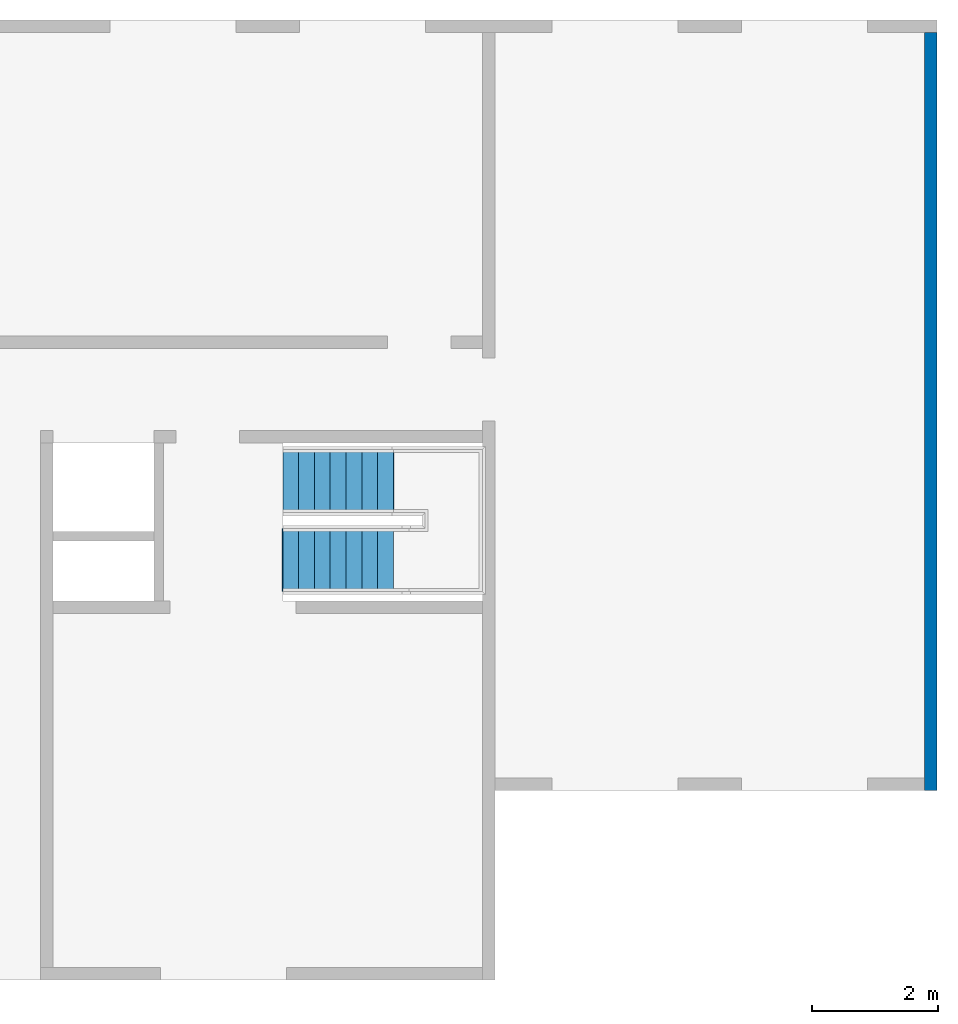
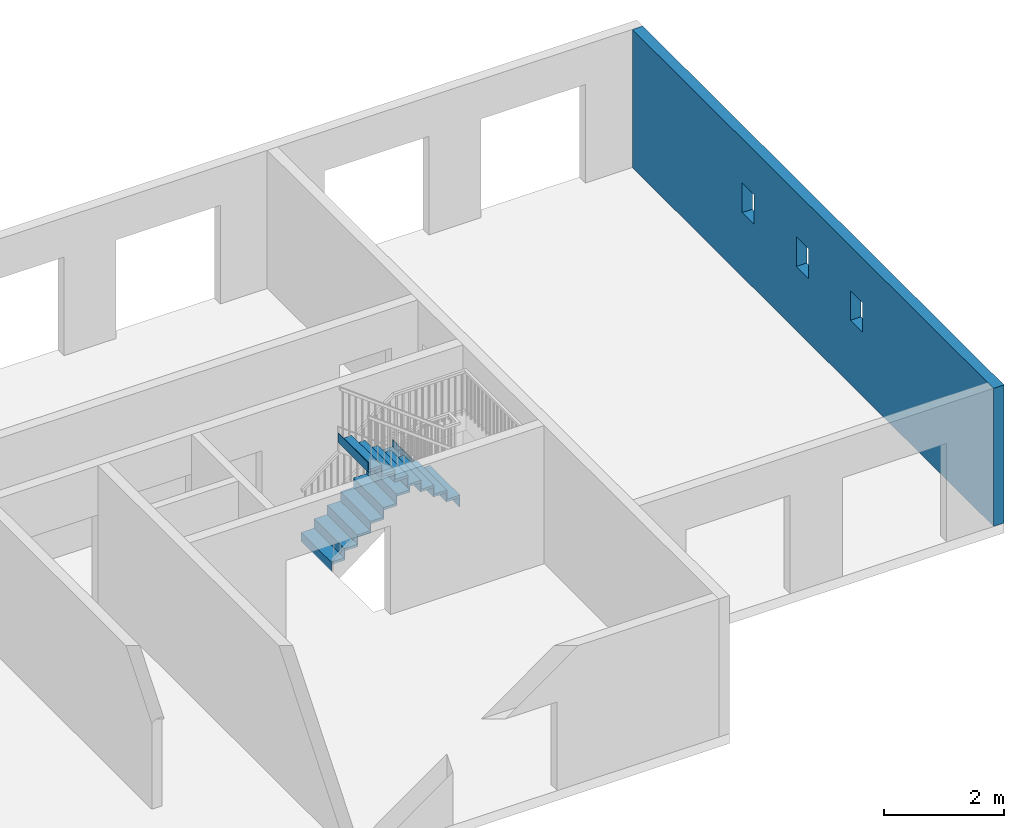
# One storey, part 2 of 3: 2 stair flights, 1 wall, 3 openings, 1 element without a shape of its own.
"""IFC2X3 building model written with IfcOpenShell, lengths in metres."""

import ifcopenshell
import ifcopenshell.guid

model = None  # the IFC model being written
_history = None  # IfcOwnerHistory: only IFC2X3 demands one
_inside = {}  # id of a spatial element -> (the spatial element, [elements in it])
_under = {}  # id of a project, library or spatial element -> (it, [spatial elements below it])
_declared = {}  # id of a project -> (the project, [libraries it declares])
_typed = {}  # id of a type object -> (the type object, [elements of that type])
_made_of = {}  # id of a material, layer set ... -> (it, [elements and type objects made of it])


def new_model(schema):
    """Start an empty IFC model of exactly this schema.

    Asked for "IFC4X3", IfcOpenShell would pick the latest addendum, in which some entities
    have other attributes; the version numbers below select the first issue.
    IFC2X3 requires an IfcOwnerHistory on every rooted entity: one is made here for all.
    """
    global model, _history
    if schema == "IFC4X3":
        model = ifcopenshell.file(schema_version=(4, 3, 0, 0))
    else:
        model = ifcopenshell.file(schema=schema)
    _inside.clear()
    _under.clear()
    _declared.clear()
    _typed.clear()
    _made_of.clear()
    _history = None
    if model.schema == "IFC2X3":
        org = make("IfcOrganization", Name="unknown")
        user = make(
            "IfcPersonAndOrganization",
            ThePerson=make("IfcPerson", FamilyName="unknown"),
            TheOrganization=org,
        )
        app = make(
            "IfcApplication",
            ApplicationDeveloper=org,
            Version="unknown",
            ApplicationFullName="unknown",
            ApplicationIdentifier="unknown",
        )
        _history = make(
            "IfcOwnerHistory",
            OwningUser=user,
            OwningApplication=app,
            ChangeAction="ADDED",
            CreationDate=0,
        )
    return model


def make(cls, **values):
    """One entity of the class cls with the attributes given. An attribute that is None is left unset."""
    return model.create_entity(
        cls, **{name: value for name, value in values.items() if value is not None}
    )


def entity(cls, *values):
    """Any entity or typed value of the class cls, its attributes in the order of the schema. None: left unset."""
    e = model.create_entity(cls)
    for i, value in enumerate(values):
        if value is not None:
            e[i] = value
    return e


def rooted(cls, **values):
    """An entity with a GlobalId (a new one), such as an element, a storey or a relation."""
    return make(cls, GlobalId=ifcopenshell.guid.new(), OwnerHistory=_history, **values)


def si_unit(unit_type, name, prefix=None):
    """IfcSIUnit, for example si_unit("LENGTHUNIT", "METRE", prefix="MILLI")."""
    return make("IfcSIUnit", UnitType=unit_type, Prefix=prefix, Name=name)


def converted_unit(unit_type, name, factor, base, dimensions=None, offset=None):
    """IfcConversionBasedUnit, such as the inch: factor (a typed value) times the base unit."""
    return make(
        "IfcConversionBasedUnit"
        if offset is None
        else "IfcConversionBasedUnitWithOffset",
        ConversionOffset=offset,
        Dimensions=None
        if dimensions is None
        else entity("IfcDimensionalExponents", *dimensions),
        UnitType=unit_type,
        Name=name,
        ConversionFactor=make(
            "IfcMeasureWithUnit", ValueComponent=factor, UnitComponent=base
        ),
    )


def derived_unit(unit_type, elements):
    """IfcDerivedUnit: a product of units, each with its exponent."""
    return make(
        "IfcDerivedUnit",
        Elements=[
            make("IfcDerivedUnitElement", Unit=unit, Exponent=power)
            for unit, power in elements
        ],
        UnitType=unit_type,
    )


def assignment(units):
    """IfcUnitAssignment: the units of a project."""
    return None if units is None else make("IfcUnitAssignment", Units=units)


def point(xyz):
    """IfcCartesianPoint."""
    return None if xyz is None else make("IfcCartesianPoint", Coordinates=xyz)


def direction(xyz):
    """IfcDirection."""
    return None if xyz is None else make("IfcDirection", DirectionRatios=xyz)


def frame(location, z_axis=None, x_axis=None):
    """IfcAxis2Placement3D, a coordinate frame: its origin and axes. An axis left out is left unset."""
    return make(
        "IfcAxis2Placement3D",
        Location=point(location),
        Axis=direction(z_axis),
        RefDirection=direction(x_axis),
    )


def frame_2d(location, x_axis=None):
    """IfcAxis2Placement2D, a coordinate frame in the plane: its origin and x axis."""
    return make(
        "IfcAxis2Placement2D", Location=point(location), RefDirection=direction(x_axis)
    )


def origin():
    """The frame at (0, 0, 0) with its axes left unset."""
    return frame((0.0, 0.0, 0.0))


def origin_2d_with_axis():
    """The frame at (0, 0) in the plane with the x axis (1, 0) written out."""
    return frame_2d((0.0, 0.0), x_axis=(1.0, 0.0))


def place(relative_to, where):
    """IfcLocalPlacement: puts the frame where relative to a parent placement (None: the world)."""
    return make(
        "IfcLocalPlacement", PlacementRelTo=relative_to, RelativePlacement=where
    )


def context(
    kind, dimensions, precision=None, world=None, true_north=None, identifier=None
):
    """IfcGeometricRepresentationContext, for example the 3D "Model" context."""
    return make(
        "IfcGeometricRepresentationContext",
        ContextIdentifier=identifier,
        ContextType=kind,
        CoordinateSpaceDimension=dimensions,
        Precision=precision,
        WorldCoordinateSystem=world,
        TrueNorth=true_north,
    )


def subcontext(parent, identifier, kind, view, scale=None):
    """IfcGeometricRepresentationSubContext, for example "Body" below "Model"."""
    return make(
        "IfcGeometricRepresentationSubContext",
        ContextIdentifier=identifier,
        ContextType=kind,
        ParentContext=parent,
        TargetScale=scale,
        TargetView=view,
    )


def project(units=None, contexts=None):
    """IfcProject with its units and contexts."""
    return rooted(
        "IfcProject",
        Name="project",
        RepresentationContexts=contexts,
        UnitsInContext=assignment(units),
    )


def spatial(cls, under=None, at=None, **own):
    """A site, building, storey or space (cls), placed at a placement, below another one or the project."""
    s = rooted(cls, ObjectPlacement=at, **own)
    if under is not None:
        _under.setdefault(under.id(), (under, []))[1].append(s)
    return s


def profile(cls, at=None, kind="AREA", **sizes):
    """A parametric profile (cls). Its sizes go by their IFC names, for example OverallWidth=200.0."""
    return make(cls, ProfileType=kind, Position=at, **sizes)


def rectangle(**sizes):
    """IfcRectangleProfileDef."""
    return profile("IfcRectangleProfileDef", **sizes)


def extrude(swept, where, along, depth):
    """IfcExtrudedAreaSolid: the profile swept, set in the frame where, extruded along a direction by depth."""
    return make(
        "IfcExtrudedAreaSolid",
        SweptArea=swept,
        Position=where,
        ExtrudedDirection=direction(along),
        Depth=depth,
    )


def shape(context_of_items, identifier, shape_type, items):
    """IfcShapeRepresentation: the items that make up one representation, for example the "Body"."""
    return make(
        "IfcShapeRepresentation",
        ContextOfItems=context_of_items,
        RepresentationIdentifier=identifier,
        RepresentationType=shape_type,
        Items=items,
    )


def material(Name=None, Category=None):
    """IfcMaterial."""
    return make("IfcMaterial", Name=Name, Category=Category)


def layer(
    of_material, thickness, ventilated=None, Name=None, Category=None, Priority=None
):
    """IfcMaterialLayer: one layer of a wall or slab, of a material (None: an air gap)."""
    return make(
        "IfcMaterialLayer",
        Material=of_material,
        LayerThickness=thickness,
        IsVentilated=ventilated,
        Name=Name,
        Category=Category,
        Priority=Priority,
    )


def layer_set(layers, Name=None):
    """IfcMaterialLayerSet."""
    return make("IfcMaterialLayerSet", MaterialLayers=layers, LayerSetName=Name)


def layer_usage(for_layer_set, set_direction, sense, offset, extent=None):
    """IfcMaterialLayerSetUsage: how a layer set lies in its element."""
    return make(
        "IfcMaterialLayerSetUsage",
        ForLayerSet=for_layer_set,
        LayerSetDirection=set_direction,
        DirectionSense=sense,
        OffsetFromReferenceLine=offset,
        ReferenceExtent=extent,
    )


def made_of(thing, what):
    """Note that an element or type object is made of a material, layer set ...; save() writes the relation."""
    if what is not None:
        _made_of.setdefault(what.id(), (what, []))[1].append(thing)
    return thing


def type_object(cls, material=None, **own):
    """A type object (cls), such as IfcWallType, which elements share."""
    return made_of(rooted(cls, **own), material)


def element(
    cls,
    number,
    at=None,
    inside=None,
    cuts=None,
    type_object=None,
    material=None,
    context=None,
    identifier="Body",
    shape_type=None,
    held_by="IfcProductDefinitionShape",
    body=None,
    shapes=None,
    **own,
):
    """One element of the class cls, such as IfcWall. Its Tag is "e" and its number.

    at: its placement. inside: the storey or other place that contains it. cuts: it is an
    opening in that element (IfcRelVoidsElement). A single representation is given by context,
    identifier, shape_type and body (its items); several are given by shapes. held_by: the class
    of the entity that holds the representations. save() writes the other relations.
    """
    e = rooted(cls, Tag="e%d" % number, ObjectPlacement=at, **own)
    if body is not None:
        shapes = [shape(context, identifier, shape_type, body)]
    if shapes is not None:
        e.Representation = make(held_by, Representations=shapes)
    if inside is not None:
        _inside.setdefault(inside.id(), (inside, []))[1].append(e)
    if cuts is not None:
        rooted(
            "IfcRelVoidsElement", RelatingBuildingElement=cuts, RelatedOpeningElement=e
        )
    if type_object is not None:
        _typed.setdefault(type_object.id(), (type_object, []))[1].append(e)
    return made_of(e, material)


def aggregate(whole, parts):
    """IfcRelAggregates: a whole, such as a stair, and the parts it consists of."""
    return rooted("IfcRelAggregates", RelatingObject=whole, RelatedObjects=parts)


def save(model, path):
    """Write the relations noted so far, then the file.

    IfcRelAggregates (storeys below a building ...), IfcRelContainedInSpatialStructure (elements
    in a storey), IfcRelDefinesByType, IfcRelAssociatesMaterial and IfcRelDeclares: one each for
    every whole, place, type object, material and project.
    """
    for whole, parts in _under.values():
        aggregate(whole, parts)
    for where, things in _inside.values():
        rooted(
            "IfcRelContainedInSpatialStructure",
            RelatedElements=things,
            RelatingStructure=where,
        )
    for kind, things in _typed.values():
        rooted("IfcRelDefinesByType", RelatedObjects=things, RelatingType=kind)
    for what, things in _made_of.values():
        rooted("IfcRelAssociatesMaterial", RelatedObjects=things, RelatingMaterial=what)
    for by, libraries in _declared.values():
        rooted("IfcRelDeclares", RelatingContext=by, RelatedDefinitions=libraries)
    model.write(path)


model = new_model("IFC2X3")

# Units and contexts
model_context = context("Model", 3, precision=1e-05, world=origin(), true_north=direction((6.12303176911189e-17, 1.0)))
context_of_model = context(None, 3, precision=1e-05, world=origin(), true_north=direction((6.12303176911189e-17, 1.0)))
body_context = subcontext(model_context, "Body", "Model", "MODEL_VIEW")
ifc_project = project(units=[si_unit("LENGTHUNIT", "METRE"), si_unit("AREAUNIT", "SQUARE_METRE"), si_unit("VOLUMEUNIT", "CUBIC_METRE"), converted_unit("PLANEANGLEUNIT", "DEGREE", entity("IfcRatioMeasure", 0.0174532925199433), si_unit("PLANEANGLEUNIT", "RADIAN"), dimensions=[0, 0, 0, 0, 0, 0, 0]), si_unit("MASSUNIT", "GRAM", prefix="KILO"), derived_unit("MASSDENSITYUNIT", [(si_unit("MASSUNIT", "GRAM", prefix="KILO"), 1), (si_unit("LENGTHUNIT", "METRE"), -3)]), si_unit("TIMEUNIT", "SECOND"), si_unit("FREQUENCYUNIT", "HERTZ"), si_unit("THERMODYNAMICTEMPERATUREUNIT", "DEGREE_CELSIUS"), derived_unit("THERMALTRANSMITTANCEUNIT", [(si_unit("MASSUNIT", "GRAM", prefix="KILO"), 1), (si_unit("THERMODYNAMICTEMPERATUREUNIT", "KELVIN"), -1), (si_unit("TIMEUNIT", "SECOND"), -3)]), derived_unit("VOLUMETRICFLOWRATEUNIT", [(si_unit("LENGTHUNIT", "METRE"), 3), (si_unit("TIMEUNIT", "SECOND"), -1)]), si_unit("ELECTRICCURRENTUNIT", "AMPERE"), si_unit("ELECTRICVOLTAGEUNIT", "VOLT"), si_unit("POWERUNIT", "WATT"), si_unit("FORCEUNIT", "NEWTON"), si_unit("ILLUMINANCEUNIT", "LUX"), si_unit("LUMINOUSFLUXUNIT", "LUMEN"), si_unit("LUMINOUSINTENSITYUNIT", "CANDELA"), derived_unit("USERDEFINED", [(si_unit("MASSUNIT", "GRAM", prefix="KILO"), -1), (si_unit("LENGTHUNIT", "METRE"), -2), (si_unit("TIMEUNIT", "SECOND"), 3), (si_unit("LUMINOUSFLUXUNIT", "LUMEN"), 1)]), derived_unit("LINEARVELOCITYUNIT", [(si_unit("LENGTHUNIT", "METRE"), 1), (si_unit("TIMEUNIT", "SECOND"), -1)]), si_unit("PRESSUREUNIT", "PASCAL"), derived_unit("USERDEFINED", [(si_unit("LENGTHUNIT", "METRE"), -2), (si_unit("MASSUNIT", "GRAM", prefix="KILO"), 1), (si_unit("TIMEUNIT", "SECOND"), -2)])], contexts=[model_context, context_of_model])

# Site, building, storey
site_placement = place(None, origin())
site = spatial("IfcSite", under=ifc_project, at=site_placement, Name="Default", CompositionType="ELEMENT")
building_placement = place(site_placement, origin())
building = spatial("IfcBuilding", under=site, at=building_placement, CompositionType="ELEMENT")
storey_placement = place(building_placement, origin())
storey = spatial("IfcBuildingStorey", under=building, at=storey_placement, Name="Rez de Chaussée", CompositionType="ELEMENT", Elevation=0.0)

# Wall, openings
ifc_material = material(Name="Béton - Coulé sur place - Béton20")
ifc_layer = layer(ifc_material, 0.2)
ifc_layer_set = layer_set([ifc_layer], Name="Mur de base:Générique - 200 mm")
ifc_layer_usage = layer_usage(ifc_layer_set, "AXIS2", "NEGATIVE", 0.1)
wall_type = type_object("IfcWallType", Name="Mur de base:Générique - 200 mm", PredefinedType="STANDARD", material=ifc_layer_set)
wall_placement = place(storey_placement, frame((15.7926639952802, 8.86181014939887, 0.2), z_axis=(0.0, 0.0, 1.0), x_axis=(0.0, -1.0, 0.0)))
wall = element("IfcWallStandardCase", 1, at=wall_placement, inside=storey, type_object=wall_type, material=ifc_layer_usage, Name="Mur de base:Générique - 200 mm", ObjectType="Mur de base:Générique - 200 mm:1044", context=body_context, shape_type="SweptSolid", body=[
    extrude(rectangle(XDim=12.0, YDim=0.200000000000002, at=frame_2d((6.0, 0.0), x_axis=(-1.0, 0.0))), origin(), (0.0, 0.0, 1.0), 2.80000000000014),
])
opening_1_placement = place(wall_placement, frame((5.45, -0.10000000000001, 1.3)))
element("IfcOpeningElement", 2, at=opening_1_placement, cuts=wall, Name="M_Fenêtre-Ouverture carrée:0400 x 600mm:1", ObjectType="Opening", context=body_context, shape_type="SweptSolid", body=[
    extrude(rectangle(XDim=0.6, YDim=0.4, at=frame_2d((0.3, 0.2), x_axis=(-1.0, 0.0))), frame((0.0, 0.0, 0.0), z_axis=(0.0, 1.0, 0.0), x_axis=(0.0, 0.0, 1.0)), (0.0, 0.0, 1.0), 0.2),
])
opening_2_placement = place(wall_placement, frame((3.65, -0.100000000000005, 1.3)))
element("IfcOpeningElement", 3, at=opening_2_placement, cuts=wall, Name="M_Fenêtre-Ouverture carrée:0400 x 600mm:1", ObjectType="Opening", context=body_context, shape_type="SweptSolid", body=[
    extrude(rectangle(XDim=0.6, YDim=0.4, at=frame_2d((0.3, 0.2), x_axis=(-1.0, 0.0))), frame((0.0, 0.0, 0.0), z_axis=(0.0, 1.0, 0.0), x_axis=(0.0, 0.0, 1.0)), (0.0, 0.0, 1.0), 0.2),
])
opening_3_placement = place(wall_placement, frame((7.25, -0.100000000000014, 1.3)))
element("IfcOpeningElement", 4, at=opening_3_placement, cuts=wall, Name="M_Fenêtre-Ouverture carrée:0400 x 600mm:1", ObjectType="Opening", context=body_context, shape_type="SweptSolid", body=[
    extrude(rectangle(XDim=0.6, YDim=0.4, at=frame_2d((0.3, 0.2), x_axis=(-1.0, 0.0))), frame((0.0, 0.0, 0.0), z_axis=(0.0, 1.0, 0.0), x_axis=(0.0, 0.0, 1.0)), (0.0, 0.0, 1.0), 0.2),
])

# Stair, stair flights
stair_placement = place(storey_placement, origin())
stair = element("IfcStair", 5, at=stair_placement, inside=storey, Name="Escalier assemblé:Escalier", ObjectType="Escalier assemblé:Contremarche 190 mm max marche 250\xa0mm", ShapeType="NOTDEFINED")
stair_flight_1_placement = place(stair_placement, origin())
stair_flight_1 = element("IfcStairFlight", 6, at=stair_flight_1_placement, Name="Escalier assemblé:Escalier:467169 Run 1", ObjectType="Escalier assemblé:Contremarche 190 mm max marche 250\xa0mm", NumberOfRiser=8, NumberOfTreads=7, RiserHeight=0.617569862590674, TreadLength=0.820209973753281, context=body_context, shape_type="SweptSolid", body=[
    extrude(rectangle(XDim=1.0, YDim=0.0125000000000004, at=frame_2d((0.0, -5.41233724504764e-16), x_axis=(1.0, 0.0))), frame((5.53891399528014, 1.76181014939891, 0.176470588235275), z_axis=(0.0, 0.0, 1.0), x_axis=(0.0, 1.0, 0.0)), (0.0, 0.0, 1.0), 0.138235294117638),
    extrude(rectangle(XDim=0.249999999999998, YDim=1.0, at=frame_2d((-5.41233724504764e-16, 1.66533453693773e-16), x_axis=(1.0, 0.0))), frame((5.65766399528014, 1.76181014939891, 0.314705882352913), z_axis=(0.0, 0.0, 1.0), x_axis=(-1.0, 0.0, 0.0)), (0.0, 0.0, 1.0), 0.05),
    extrude(rectangle(XDim=1.0, YDim=0.0125000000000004, at=frame_2d((0.0, -5.41233724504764e-16), x_axis=(1.0, 0.0))), frame((5.78891399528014, 1.76181014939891, 0.314705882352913), z_axis=(0.0, 0.0, 1.0), x_axis=(0.0, 1.0, 0.0)), (0.0, 0.0, 1.0), 0.188235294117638),
    extrude(rectangle(XDim=0.250000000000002, YDim=1.0, at=frame_2d((0.0, 1.66533453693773e-16), x_axis=(1.0, 0.0))), frame((5.90766399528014, 1.76181014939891, 0.50294117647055), z_axis=(0.0, 0.0, 1.0), x_axis=(-1.0, 0.0, 0.0)), (0.0, 0.0, 1.0), 0.05),
    extrude(rectangle(XDim=1.0, YDim=0.0125000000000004, at=frame_2d((0.0, -5.41233724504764e-16), x_axis=(1.0, 0.0))), frame((6.03891399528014, 1.76181014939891, 0.50294117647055), z_axis=(0.0, 0.0, 1.0), x_axis=(0.0, 1.0, 0.0)), (0.0, 0.0, 1.0), 0.188235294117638),
    extrude(rectangle(XDim=0.250000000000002, YDim=1.0, at=frame_2d((0.0, -1.66533453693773e-16), x_axis=(1.0, 0.0))), frame((6.15766399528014, 1.76181014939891, 0.691176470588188), z_axis=(0.0, 0.0, 1.0), x_axis=(-1.0, 0.0, 0.0)), (0.0, 0.0, 1.0), 0.05),
    extrude(rectangle(XDim=1.0, YDim=0.0125000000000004, at=frame_2d((0.0, -5.41233724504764e-16), x_axis=(1.0, 0.0))), frame((6.28891399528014, 1.7618101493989, 0.691176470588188), z_axis=(0.0, 0.0, 1.0), x_axis=(0.0, 1.0, 0.0)), (0.0, 0.0, 1.0), 0.188235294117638),
    extrude(rectangle(XDim=0.250000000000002, YDim=1.0, at=frame_2d((0.0, 1.66533453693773e-16), x_axis=(1.0, 0.0))), frame((6.40766399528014, 1.7618101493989, 0.879411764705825), z_axis=(0.0, 0.0, 1.0), x_axis=(-1.0, 0.0, 0.0)), (0.0, 0.0, 1.0), 0.05),
    extrude(rectangle(XDim=1.0, YDim=0.0125000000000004, at=frame_2d((0.0, -5.41233724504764e-16), x_axis=(1.0, 0.0))), frame((6.53891399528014, 1.7618101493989, 0.879411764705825), z_axis=(0.0, 0.0, 1.0), x_axis=(0.0, 1.0, 0.0)), (0.0, 0.0, 1.0), 0.188235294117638),
    extrude(rectangle(XDim=0.250000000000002, YDim=1.0, at=frame_2d((0.0, -1.66533453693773e-16), x_axis=(1.0, 0.0))), frame((6.65766399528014, 1.7618101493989, 1.06764705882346), z_axis=(0.0, 0.0, 1.0), x_axis=(-1.0, 0.0, 0.0)), (0.0, 0.0, 1.0), 0.05),
    extrude(rectangle(XDim=1.0, YDim=0.0125000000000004, at=frame_2d((0.0, 5.41233724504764e-16), x_axis=(1.0, 0.0))), frame((6.78891399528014, 1.7618101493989, 1.06764705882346), z_axis=(0.0, 0.0, 1.0), x_axis=(0.0, 1.0, 0.0)), (0.0, 0.0, 1.0), 0.188235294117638),
    extrude(rectangle(XDim=0.250000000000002, YDim=1.0, at=frame_2d((0.0, 1.66533453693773e-16), x_axis=(1.0, 0.0))), frame((6.90766399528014, 1.7618101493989, 1.2558823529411), z_axis=(0.0, 0.0, 1.0), x_axis=(-1.0, 0.0, 0.0)), (0.0, 0.0, 1.0), 0.05),
    extrude(rectangle(XDim=1.0, YDim=0.0125000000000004, at=frame_2d((0.0, -5.41233724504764e-16), x_axis=(1.0, 0.0))), frame((7.03891399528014, 1.7618101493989, 1.2558823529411), z_axis=(0.0, 0.0, 1.0), x_axis=(0.0, 1.0, 0.0)), (0.0, 0.0, 1.0), 0.188235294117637),
    extrude(rectangle(XDim=0.250000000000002, YDim=1.0, at=frame_2d((-1.08246744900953e-15, -1.66533453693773e-16), x_axis=(1.0, 0.0))), frame((7.15766399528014, 1.7618101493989, 1.44411764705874), z_axis=(0.0, 0.0, 1.0), x_axis=(-1.0, 0.0, 0.0)), (0.0, 0.0, 1.0), 0.05),
    extrude(rectangle(XDim=1.0, YDim=0.0125000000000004, at=origin_2d_with_axis()), frame((7.28891399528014, 1.7618101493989, 1.44411764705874), z_axis=(0.0, 0.0, 1.0), x_axis=(0.0, 1.0, 0.0)), (0.0, 0.0, 1.0), 0.188235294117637),
])
stair_flight_2_placement = place(stair_placement, origin())
stair_flight_2 = element("IfcStairFlight", 7, at=stair_flight_2_placement, Name="Escalier assemblé:Escalier:467169 Run 2", ObjectType="Escalier assemblé:Contremarche 190 mm max marche 250\xa0mm", NumberOfRiser=8, NumberOfTreads=7, RiserHeight=0.617569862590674, TreadLength=0.820209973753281, context=body_context, shape_type="SweptSolid", body=[
    extrude(rectangle(XDim=1.0, YDim=0.0125000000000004, at=frame_2d((0.0, -1.08290112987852e-15), x_axis=(1.0, 0.0))), frame((7.27641399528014, 0.511810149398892, 1.63235294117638), z_axis=(0.0, 0.0, 1.0), x_axis=(0.0, -1.0, 0.0)), (0.0, 0.0, 1.0), 0.188235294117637),
    extrude(rectangle(XDim=0.249999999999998, YDim=1.0, at=frame_2d((5.41233724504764e-16, -2.77555756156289e-17), x_axis=(1.0, 0.0))), frame((7.15766399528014, 0.511810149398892, 1.82058823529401)), (0.0, 0.0, 1.0), 0.05),
    extrude(rectangle(XDim=1.0, YDim=0.0125000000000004, at=origin_2d_with_axis()), frame((7.02641399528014, 0.511810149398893, 1.82058823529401), z_axis=(0.0, 0.0, 1.0), x_axis=(0.0, -1.0, 0.0)), (0.0, 0.0, 1.0), 0.188235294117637),
    extrude(rectangle(XDim=0.250000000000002, YDim=1.0, at=frame_2d((5.41233724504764e-16, -2.77555756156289e-17), x_axis=(1.0, 0.0))), frame((6.90766399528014, 0.511810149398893, 2.00882352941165)), (0.0, 0.0, 1.0), 0.05),
    extrude(rectangle(XDim=1.0, YDim=0.0125000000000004, at=frame_2d((0.0, 1.08290112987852e-15), x_axis=(1.0, 0.0))), frame((6.77641399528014, 0.511810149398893, 2.00882352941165), z_axis=(0.0, 0.0, 1.0), x_axis=(0.0, -1.0, 0.0)), (0.0, 0.0, 1.0), 0.188235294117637),
    extrude(rectangle(XDim=0.250000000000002, YDim=1.0, at=frame_2d((-5.41233724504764e-16, 2.77555756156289e-17), x_axis=(1.0, 0.0))), frame((6.65766399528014, 0.511810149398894, 2.19705882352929)), (0.0, 0.0, 1.0), 0.05),
    extrude(rectangle(XDim=1.0, YDim=0.0125000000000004, at=origin_2d_with_axis()), frame((6.52641399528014, 0.511810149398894, 2.19705882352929), z_axis=(0.0, 0.0, 1.0), x_axis=(0.0, -1.0, 0.0)), (0.0, 0.0, 1.0), 0.188235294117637),
    extrude(rectangle(XDim=0.250000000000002, YDim=1.0, at=frame_2d((-5.41233724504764e-16, 2.77555756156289e-17), x_axis=(1.0, 0.0))), frame((6.40766399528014, 0.511810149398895, 2.38529411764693)), (0.0, 0.0, 1.0), 0.05),
    extrude(rectangle(XDim=1.0, YDim=0.0125000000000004, at=origin_2d_with_axis()), frame((6.27641399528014, 0.511810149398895, 2.38529411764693), z_axis=(0.0, 0.0, 1.0), x_axis=(0.0, -1.0, 0.0)), (0.0, 0.0, 1.0), 0.188235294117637),
    extrude(rectangle(XDim=0.250000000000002, YDim=1.0, at=frame_2d((-5.41233724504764e-16, 2.77555756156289e-17), x_axis=(1.0, 0.0))), frame((6.15766399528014, 0.511810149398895, 2.57352941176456)), (0.0, 0.0, 1.0), 0.05),
    extrude(rectangle(XDim=1.0, YDim=0.0125000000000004, at=origin_2d_with_axis()), frame((6.02641399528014, 0.511810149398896, 2.57352941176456), z_axis=(0.0, 0.0, 1.0), x_axis=(0.0, -1.0, 0.0)), (0.0, 0.0, 1.0), 0.188235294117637),
    extrude(rectangle(XDim=0.250000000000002, YDim=1.0, at=frame_2d((-5.41233724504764e-16, 0.0), x_axis=(1.0, 0.0))), frame((5.90766399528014, 0.511810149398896, 2.7617647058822)), (0.0, 0.0, 1.0), 0.05),
    extrude(rectangle(XDim=1.0, YDim=0.0125000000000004, at=origin_2d_with_axis()), frame((5.77641399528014, 0.511810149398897, 2.7617647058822), z_axis=(0.0, 0.0, 1.0), x_axis=(0.0, -1.0, 0.0)), (0.0, 0.0, 1.0), 0.188235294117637),
    extrude(rectangle(XDim=0.250000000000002, YDim=1.0, at=frame_2d((-5.41233724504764e-16, 0.0), x_axis=(1.0, 0.0))), frame((5.65766399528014, 0.511810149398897, 2.94999999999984)), (0.0, 0.0, 1.0), 0.05),
    extrude(rectangle(XDim=1.0, YDim=0.0125000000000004, at=frame_2d((0.0, -1.08290112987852e-15), x_axis=(1.0, 0.0))), frame((5.52641399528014, 0.511810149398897, 2.94999999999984), z_axis=(0.0, 0.0, 1.0), x_axis=(0.0, -1.0, 0.0)), (0.0, 0.0, 1.0), 0.188235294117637),
])
aggregate(stair, [stair_flight_1, stair_flight_2])

save(model, "model.ifc")
